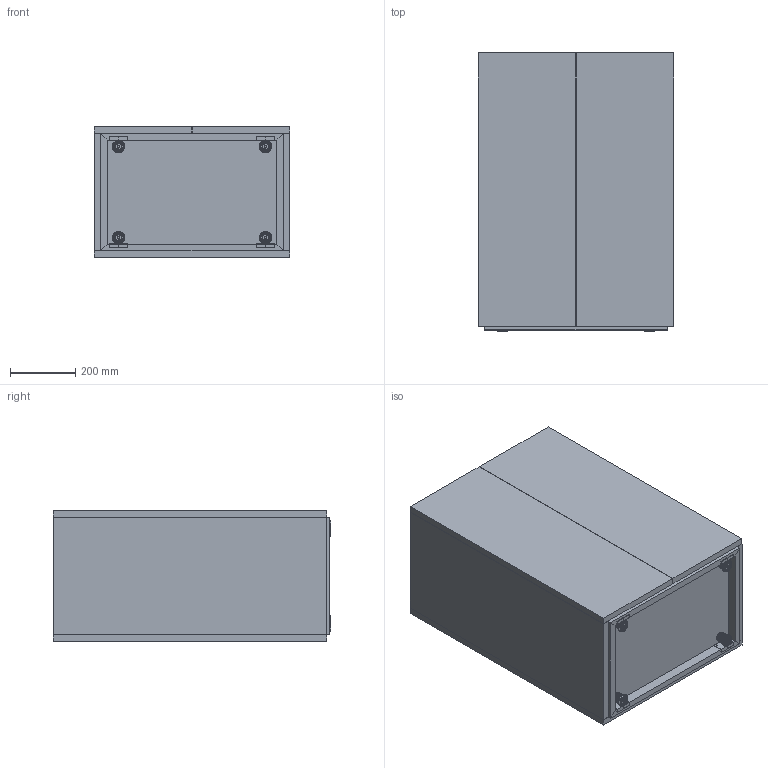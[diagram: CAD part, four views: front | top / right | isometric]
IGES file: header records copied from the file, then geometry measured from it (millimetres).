
Start section: SolidWorks IGES file using analytic representation for surfaces
Global section: file name: C:\DOCUMENTI_UT\030_PRODUZIONE MAKRO\SW\MOBILI_LAVABO\MODULO30\ASSIEMI\TOP TECH LATERALE\MODULO30_60\MODULO30_60_2ANTE_MOBILE_LAVABODX_ISOLA.IGS; native system: SolidWorks 2012; preprocessor: SolidWorks 2012; author: TECNICO; date: 160519.090522; units: millimetre
Bounding box: 600 x 851.15 x 400 mm (x, y, z)
Surface area: 4267437 mm2 (no closed solid volume)
Topology: 0 solids, 0 shells, 386 faces, 7714 edges, 7702 vertices
Faces by surface type: bspline 226, revolution 160
